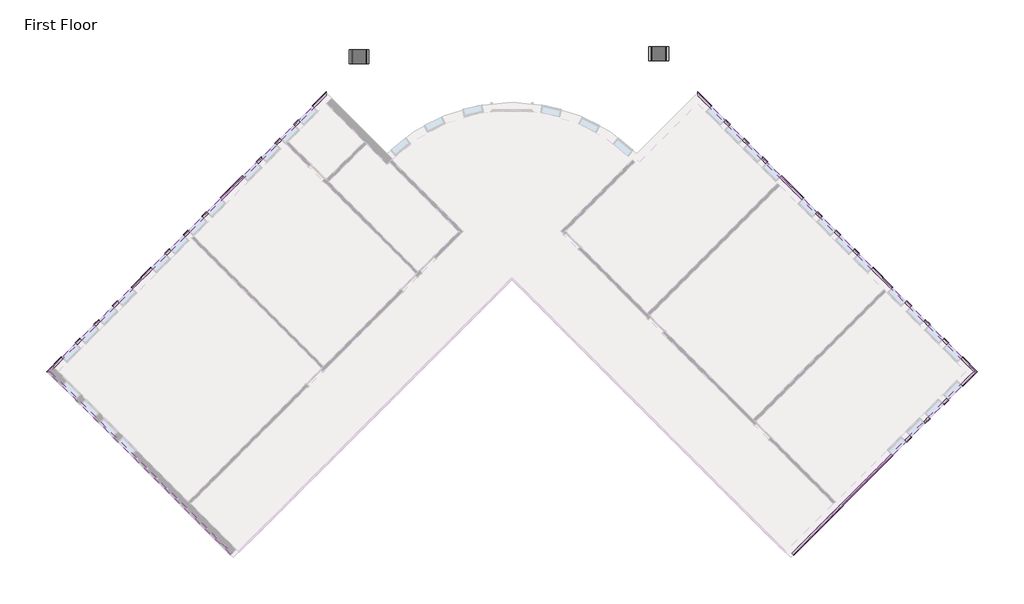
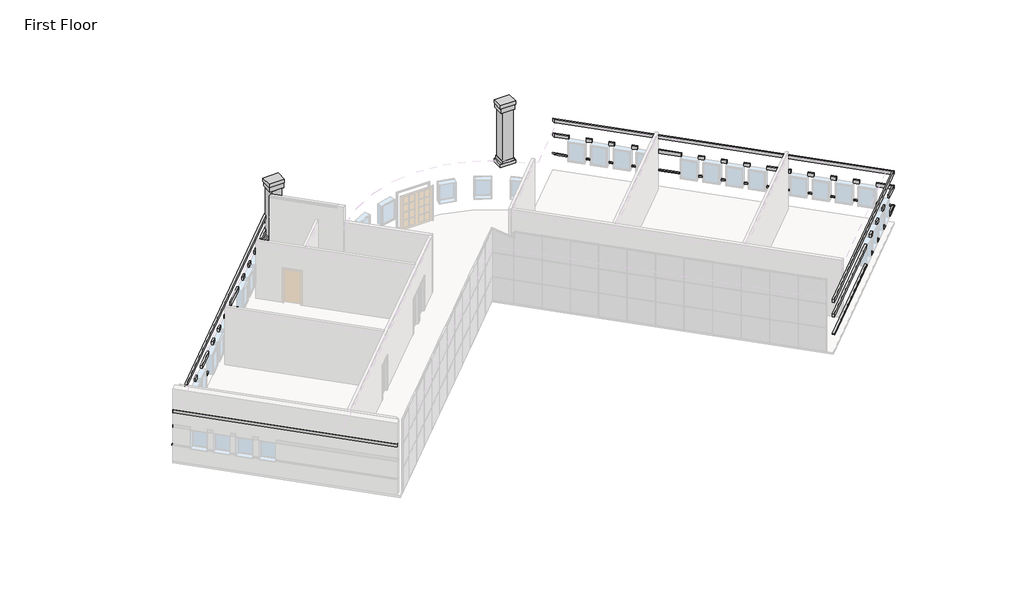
# One storey, part 5 of 5: 12 proxies.
"""IFC4 building model written with IfcOpenShell, lengths in millimetres."""

import ifcopenshell
import ifcopenshell.guid

model = None  # the IFC model being written
_history = None  # IfcOwnerHistory: only IFC2X3 demands one
_inside = {}  # id of a spatial element -> (the spatial element, [elements in it])
_under = {}  # id of a project, library or spatial element -> (it, [spatial elements below it])
_declared = {}  # id of a project -> (the project, [libraries it declares])
_typed = {}  # id of a type object -> (the type object, [elements of that type])
_made_of = {}  # id of a material, layer set ... -> (it, [elements and type objects made of it])


def new_model(schema):
    """Start an empty IFC model of exactly this schema.

    Asked for "IFC4X3", IfcOpenShell would pick the latest addendum, in which some entities
    have other attributes; the version numbers below select the first issue.
    IFC2X3 requires an IfcOwnerHistory on every rooted entity: one is made here for all.
    """
    global model, _history
    if schema == "IFC4X3":
        model = ifcopenshell.file(schema_version=(4, 3, 0, 0))
    else:
        model = ifcopenshell.file(schema=schema)
    _inside.clear()
    _under.clear()
    _declared.clear()
    _typed.clear()
    _made_of.clear()
    _history = None
    if model.schema == "IFC2X3":
        org = make("IfcOrganization", Name="unknown")
        user = make(
            "IfcPersonAndOrganization",
            ThePerson=make("IfcPerson", FamilyName="unknown"),
            TheOrganization=org,
        )
        app = make(
            "IfcApplication",
            ApplicationDeveloper=org,
            Version="unknown",
            ApplicationFullName="unknown",
            ApplicationIdentifier="unknown",
        )
        _history = make(
            "IfcOwnerHistory",
            OwningUser=user,
            OwningApplication=app,
            ChangeAction="ADDED",
            CreationDate=0,
        )
    return model


def make(cls, **values):
    """One entity of the class cls with the attributes given. An attribute that is None is left unset."""
    return model.create_entity(
        cls, **{name: value for name, value in values.items() if value is not None}
    )


def rooted(cls, **values):
    """An entity with a GlobalId (a new one), such as an element, a storey or a relation."""
    return make(cls, GlobalId=ifcopenshell.guid.new(), OwnerHistory=_history, **values)


def si_unit(unit_type, name, prefix=None):
    """IfcSIUnit, for example si_unit("LENGTHUNIT", "METRE", prefix="MILLI")."""
    return make("IfcSIUnit", UnitType=unit_type, Prefix=prefix, Name=name)


def assignment(units):
    """IfcUnitAssignment: the units of a project."""
    return None if units is None else make("IfcUnitAssignment", Units=units)


def point(xyz):
    """IfcCartesianPoint."""
    return None if xyz is None else make("IfcCartesianPoint", Coordinates=xyz)


def direction(xyz):
    """IfcDirection."""
    return None if xyz is None else make("IfcDirection", DirectionRatios=xyz)


def frame(location, z_axis=None, x_axis=None):
    """IfcAxis2Placement3D, a coordinate frame: its origin and axes. An axis left out is left unset."""
    return make(
        "IfcAxis2Placement3D",
        Location=point(location),
        Axis=direction(z_axis),
        RefDirection=direction(x_axis),
    )


def origin():
    """The frame at (0, 0, 0) with its axes left unset."""
    return frame((0.0, 0.0, 0.0))


def origin_with_axes():
    """The frame at (0, 0, 0) with the z axis (0, 0, 1) and the x axis (1, 0, 0) written out."""
    return frame((0.0, 0.0, 0.0), z_axis=(0.0, 0.0, 1.0), x_axis=(1.0, 0.0, 0.0))


def place(relative_to, where):
    """IfcLocalPlacement: puts the frame where relative to a parent placement (None: the world)."""
    return make(
        "IfcLocalPlacement", PlacementRelTo=relative_to, RelativePlacement=where
    )


def context(
    kind, dimensions, precision=None, world=None, true_north=None, identifier=None
):
    """IfcGeometricRepresentationContext, for example the 3D "Model" context."""
    return make(
        "IfcGeometricRepresentationContext",
        ContextIdentifier=identifier,
        ContextType=kind,
        CoordinateSpaceDimension=dimensions,
        Precision=precision,
        WorldCoordinateSystem=world,
        TrueNorth=true_north,
    )


def project(units=None, contexts=None):
    """IfcProject with its units and contexts."""
    return rooted(
        "IfcProject",
        Name="project",
        RepresentationContexts=contexts,
        UnitsInContext=assignment(units),
    )


def spatial(cls, under=None, at=None, **own):
    """A site, building, storey or space (cls), placed at a placement, below another one or the project."""
    s = rooted(cls, ObjectPlacement=at, **own)
    if under is not None:
        _under.setdefault(under.id(), (under, []))[1].append(s)
    return s


def polyline(points):
    """IfcPolyline through the points."""
    return make("IfcPolyline", Points=[point(p) for p in points])


def outline(outer, holes=None, kind="AREA"):
    """IfcArbitraryClosedProfileDef: a profile drawn as a closed curve; with holes, ...WithVoids."""
    if holes is None:
        return make("IfcArbitraryClosedProfileDef", ProfileType=kind, OuterCurve=outer)
    return make(
        "IfcArbitraryProfileDefWithVoids",
        ProfileType=kind,
        OuterCurve=outer,
        InnerCurves=holes,
    )


def extrude(swept, where, along, depth):
    """IfcExtrudedAreaSolid: the profile swept, set in the frame where, extruded along a direction by depth."""
    return make(
        "IfcExtrudedAreaSolid",
        SweptArea=swept,
        Position=where,
        ExtrudedDirection=direction(along),
        Depth=depth,
    )


def faces_of(points, faces, orient=None, outer=None):
    """IfcFace entities. A face is a list of loops; a loop is a list of indices into points, from 0.

    orient and outer hold one flag for each loop. By default every Orientation is true, the
    first loop of a face is its IfcFaceOuterBound and the others are IfcFaceBound.
    """
    made = []
    for i, loops in enumerate(faces):
        bounds = []
        for j, loop in enumerate(loops):
            is_outer = j == 0 if outer is None else outer[i][j]
            bounds.append(
                make(
                    "IfcFaceOuterBound" if is_outer else "IfcFaceBound",
                    Bound=make("IfcPolyLoop", Polygon=[points[k] for k in loop]),
                    Orientation=True if orient is None else orient[i][j],
                )
            )
        made.append(make("IfcFace", Bounds=bounds))
    return made


def faceted_brep(points, faces, orient=None, outer=None, voids=None):
    """IfcFacetedBrep: a solid bounded by flat faces; with voids (closed shells), ...WithVoids."""
    shared = [point(p) for p in points]
    hull = make("IfcClosedShell", CfsFaces=faces_of(shared, faces, orient, outer))
    if voids is None:
        return make("IfcFacetedBrep", Outer=hull)
    return make(
        "IfcFacetedBrepWithVoids",
        Outer=hull,
        Voids=[
            make(cls, CfsFaces=faces_of(shared, fs, o, b)) for cls, fs, o, b in voids
        ],
    )


def shape(context_of_items, identifier, shape_type, items):
    """IfcShapeRepresentation: the items that make up one representation, for example the "Body"."""
    return make(
        "IfcShapeRepresentation",
        ContextOfItems=context_of_items,
        RepresentationIdentifier=identifier,
        RepresentationType=shape_type,
        Items=items,
    )


def source(mapping_origin, context_of_items, identifier, shape_type, items):
    """IfcRepresentationMap: a shape defined once, which mapped items show again and again."""
    return make(
        "IfcRepresentationMap",
        MappingOrigin=mapping_origin,
        MappedRepresentation=shape(context_of_items, identifier, shape_type, items),
    )


def transform(
    local_origin,
    x_axis=None,
    y_axis=None,
    z_axis=None,
    scale=None,
    scale2=None,
    scale3=None,
    uniform=True,
):
    """IfcCartesianTransformationOperator3D, or its non-uniform kind. x_axis, y_axis, z_axis: its Axis1, 2, 3."""
    if uniform:
        return make(
            "IfcCartesianTransformationOperator3D",
            Axis1=direction(x_axis),
            Axis2=direction(y_axis),
            LocalOrigin=point(local_origin),
            Scale=scale,
            Axis3=direction(z_axis),
        )
    return make(
        "IfcCartesianTransformationOperator3DnonUniform",
        Axis1=direction(x_axis),
        Axis2=direction(y_axis),
        LocalOrigin=point(local_origin),
        Scale=scale,
        Axis3=direction(z_axis),
        Scale2=scale2,
        Scale3=scale3,
    )


def mapped(mapping_source, mapping_target):
    """IfcMappedItem: shows the shape of a source again, moved by a transform."""
    return make(
        "IfcMappedItem", MappingSource=mapping_source, MappingTarget=mapping_target
    )


def made_of(thing, what):
    """Note that an element or type object is made of a material, layer set ...; save() writes the relation."""
    if what is not None:
        _made_of.setdefault(what.id(), (what, []))[1].append(thing)
    return thing


def element(
    cls,
    number,
    at=None,
    inside=None,
    cuts=None,
    type_object=None,
    material=None,
    context=None,
    identifier="Body",
    shape_type=None,
    held_by="IfcProductDefinitionShape",
    body=None,
    shapes=None,
    **own,
):
    """One element of the class cls, such as IfcWall. Its Tag is "e" and its number.

    at: its placement. inside: the storey or other place that contains it. cuts: it is an
    opening in that element (IfcRelVoidsElement). A single representation is given by context,
    identifier, shape_type and body (its items); several are given by shapes. held_by: the class
    of the entity that holds the representations. save() writes the other relations.
    """
    e = rooted(cls, Tag="e%d" % number, ObjectPlacement=at, **own)
    if body is not None:
        shapes = [shape(context, identifier, shape_type, body)]
    if shapes is not None:
        e.Representation = make(held_by, Representations=shapes)
    if inside is not None:
        _inside.setdefault(inside.id(), (inside, []))[1].append(e)
    if cuts is not None:
        rooted(
            "IfcRelVoidsElement", RelatingBuildingElement=cuts, RelatedOpeningElement=e
        )
    if type_object is not None:
        _typed.setdefault(type_object.id(), (type_object, []))[1].append(e)
    return made_of(e, material)


def aggregate(whole, parts):
    """IfcRelAggregates: a whole, such as a stair, and the parts it consists of."""
    return rooted("IfcRelAggregates", RelatingObject=whole, RelatedObjects=parts)


def save(model, path):
    """Write the relations noted so far, then the file.

    IfcRelAggregates (storeys below a building ...), IfcRelContainedInSpatialStructure (elements
    in a storey), IfcRelDefinesByType, IfcRelAssociatesMaterial and IfcRelDeclares: one each for
    every whole, place, type object, material and project.
    """
    for whole, parts in _under.values():
        aggregate(whole, parts)
    for where, things in _inside.values():
        rooted(
            "IfcRelContainedInSpatialStructure",
            RelatedElements=things,
            RelatingStructure=where,
        )
    for kind, things in _typed.values():
        rooted("IfcRelDefinesByType", RelatedObjects=things, RelatingType=kind)
    for what, things in _made_of.values():
        rooted("IfcRelAssociatesMaterial", RelatedObjects=things, RelatingMaterial=what)
    for by, libraries in _declared.values():
        rooted("IfcRelDeclares", RelatingContext=by, RelatedDefinitions=libraries)
    model.write(path)


def architectural_column_architectural_column_acd7ab04(model_context):
    return source(origin(), model_context, "Body", "SolidModel", [
        faceted_brep([(-304.8, -3048.0, 355.6), (304.8, -3048.0, 355.6), (304.8, -3048.0, 3403.6), (-304.8, -3048.0, 3403.6), (-177.8, -3048.0, 508.0), (-177.8, -3048.0, 3251.2), (-127.0, -3048.0, 3251.2), (-127.0, -3048.0, 508.0), (25.4, -3048.0, 508.0), (-25.4, -3048.0, 508.0), (-25.4, -3048.0, 3251.2), (25.4, -3048.0, 3251.2), (127.0, -3048.0, 508.0), (127.0, -3048.0, 3251.2), (177.8, -3048.0, 3251.2), (177.8, -3048.0, 508.0), (-304.8, -2387.6, 355.6), (-304.8, -2387.6, 3403.6), (304.8, -2387.6, 3403.6), (304.8, -2387.6, 355.6), (-177.8, -3031.7847439, 3251.2), (-177.8, -3031.7847439, 508.0), (-127.0, -3031.7847439, 508.0), (-127.0, -3031.7847439, 3251.2), (-25.4, -3031.7847439, 508.0), (25.4, -3031.7847439, 508.0), (25.4, -3031.7847439, 3251.2), (-25.4, -3031.7847439, 3251.2), (127.0, -3031.7847439, 3251.2), (127.0, -3031.7847439, 508.0), (177.8, -3031.7847439, 508.0), (177.8, -3031.7847439, 3251.2)], [[[0, 1, 2, 3], [4, 5, 6, 7], [8, 9, 10, 11], [12, 13, 14, 15]], [[16, 17, 18, 19]], [[1, 0, 16, 19]], [[2, 1, 19, 18]], [[3, 2, 18, 17]], [[0, 3, 17, 16]], [[20, 21, 22, 23]], [[24, 25, 26, 27]], [[28, 29, 30, 31]], [[21, 20, 5, 4]], [[22, 21, 4, 7]], [[23, 22, 7, 6]], [[20, 23, 6, 5]], [[25, 24, 9, 8]], [[26, 25, 8, 11]], [[27, 26, 11, 10]], [[24, 27, 10, 9]], [[29, 28, 13, 12]], [[30, 29, 12, 15]], [[31, 30, 15, 14]], [[28, 31, 14, 13]]]),
        extrude(outline(polyline([(457.2, -3048.0), (-457.2, -3048.0), (-457.2, -2387.6), (457.2, -2387.6), (457.2, -3048.0)])), origin_with_axes(), (0.0, 0.0, 1.0), 203.2),
        extrude(outline(polyline([(355.6, -3048.0), (-355.6, -3048.0), (-355.6, -2387.6), (355.6, -2387.6), (355.6, -3048.0)])), frame((0.0, 0.0, 203.2), z_axis=(0.0, 0.0, 1.0), x_axis=(1.0, 0.0, 0.0)), (0.0, 0.0, 1.0), 152.4),
        extrude(outline(polyline([(457.2, -3048.0), (-457.2, -3048.0), (-457.2, -2387.6), (457.2, -2387.6), (457.2, -3048.0)])), frame((0.0, 0.0, 3708.4), z_axis=(0.0, 0.0, 1.0), x_axis=(1.0, 0.0, 0.0)), (0.0, 0.0, 1.0), 208.8835792),
        extrude(outline(polyline([(3403.6, -406.4), (3403.6, -304.8), (3403.6, 406.4), (3708.4, 406.4), (3708.4, -406.4), (3403.6, -406.4)])), frame((0.0, -3048.0, 0.0), z_axis=(0.0, 1.0, 0.0), x_axis=(0.0, 0.0, 1.0)), (0.0, 0.0, 1.0), 660.4),
    ])


model = new_model("IFC4")

# Units and contexts
model_context = context("Model", 3, world=origin())
ifc_project = project(units=[si_unit("LENGTHUNIT", "METRE", prefix="MILLI")], contexts=[model_context])

# Site, building, storey
site = spatial("IfcSite", under=ifc_project)
building = spatial("IfcBuilding", under=site)
storey = spatial("IfcBuildingStorey", under=building, Name="First Floor", Elevation=0.0)

# Proxies
placement = place(None, origin())
element("IfcBuildingElementProxy", 1, Name="Wall Sweeps", at=placement, inside=storey, context=model_context, shape_type="Brep", body=[
    faceted_brep([(5753.0175119, 11443.3655905, 1085.85), (5753.0175119, 11573.5793042, 1085.85), (5753.0175119, 11622.9707129, 1041.4), (5753.0175119, 11622.9707129, 1016.0), (5753.0175119, 11443.3655905, 1016.0), (6317.415551, 10878.9675514, 1085.85), (6317.415551, 10878.9675514, 1016.0), (6382.5224079, 10944.0744083, 1016.0), (6407.2181122, 10968.7701126, 1016.0), (6407.2181122, 10968.7701126, 1041.4), (6382.5224079, 10944.0744083, 1085.85), (5937.1127624, 11259.27034, 1085.85), (5937.1127624, 11259.27034, 1016.0)], [[[0, 1, 2, 3, 4]], [[5, 6, 7, 8, 9, 10]], [[1, 0, 11, 5, 10]], [[2, 1, 10, 9]], [[3, 2, 9, 8]], [[4, 3, 8, 7, 6, 12]], [[0, 4, 12, 6, 5, 11]]]),
    faceted_brep([(6963.9939917, 10232.3891107, 1085.85), (7029.1008486, 10297.4959676, 1085.85), (7053.7965529, 10322.1916719, 1041.4), (7053.7965529, 10322.1916719, 1016.0), (7029.1008486, 10297.4959676, 1016.0), (6963.9939917, 10232.3891107, 1016.0), (7179.5201386, 10016.8629638, 1085.85), (7179.5201386, 10016.8629638, 1016.0), (7244.6269955, 10081.9698207, 1016.0), (7269.3226998, 10106.665525, 1016.0), (7269.3226998, 10106.665525, 1041.4), (7244.6269955, 10081.9698207, 1085.85)], [[[0, 1, 2, 3, 4, 5]], [[6, 7, 8, 9, 10, 11]], [[1, 0, 6, 11]], [[2, 1, 11, 10]], [[3, 2, 10, 9]], [[5, 4, 3, 9, 8, 7]], [[0, 5, 7, 6]]]),
    faceted_brep([(7826.0985793, 9370.2845231, 1085.85), (7891.2054362, 9435.39138, 1085.85), (7915.9011405, 9460.0870843, 1041.4), (7915.9011405, 9460.0870843, 1016.0), (7891.2054362, 9435.39138, 1016.0), (7826.0985793, 9370.2845231, 1016.0), (8041.6247262, 9154.7583762, 1085.85), (8041.6247262, 9154.7583762, 1016.0), (8106.7315831, 9219.8652331, 1016.0), (8131.4272874, 9244.5609374, 1016.0), (8131.4272874, 9244.5609374, 1041.4), (8106.7315831, 9219.8652331, 1085.85)], [[[0, 1, 2, 3, 4, 5]], [[6, 7, 8, 9, 10, 11]], [[1, 0, 6, 11]], [[2, 1, 11, 10]], [[3, 2, 10, 9]], [[5, 4, 3, 9, 8, 7]], [[0, 5, 7, 6]]]),
    faceted_brep([(8688.2031669, 8508.1799355, 1085.85), (8753.3100238, 8573.2867923, 1085.85), (8778.0057282, 8597.9824967, 1041.4), (8778.0057282, 8597.9824967, 1016.0), (8753.3100238, 8573.2867923, 1016.0), (8688.2031669, 8508.1799355, 1016.0), (8903.7293139, 8292.6537886, 1085.85), (8903.7293139, 8292.6537886, 1016.0), (8968.8361707, 8357.7606454, 1016.0), (8993.5318751, 8382.4563498, 1016.0), (8993.5318751, 8382.4563498, 1041.4), (8968.8361707, 8357.7606454, 1085.85)], [[[0, 1, 2, 3, 4, 5]], [[6, 7, 8, 9, 10, 11]], [[1, 0, 6, 11]], [[2, 1, 11, 10]], [[3, 2, 10, 9]], [[5, 4, 3, 9, 8, 7]], [[0, 5, 7, 6]]]),
    faceted_brep([(9550.3077546, 7646.0753478, 1085.85), (9615.4146114, 7711.1822047, 1085.85), (9640.1103158, 7735.877909, 1041.4), (9640.1103158, 7735.877909, 1016.0), (9615.4146114, 7711.1822047, 1016.0), (9550.3077546, 7646.0753478, 1016.0), (10574.7639411, 6621.6191613, 1085.85), (10574.7639411, 6621.6191613, 1016.0), (10639.870798, 6686.7260182, 1016.0), (10664.5665023, 6711.4217225, 1016.0), (10664.5665023, 6711.4217225, 1041.4), (10639.870798, 6686.7260182, 1085.85)], [[[0, 1, 2, 3, 4, 5]], [[6, 7, 8, 9, 10, 11]], [[1, 0, 6, 11]], [[2, 1, 11, 10]], [[3, 2, 10, 9]], [[5, 4, 3, 9, 8, 7]], [[0, 5, 7, 6]]]),
    faceted_brep([(11221.3423818, 5975.0407206, 1085.85), (11286.4492387, 6040.1475775, 1085.85), (11311.144943, 6064.8432818, 1041.4), (11311.144943, 6064.8432818, 1016.0), (11286.4492387, 6040.1475775, 1016.0), (11221.3423818, 5975.0407206, 1016.0), (11436.8685287, 5759.5145737, 1085.85), (11436.8685287, 5759.5145737, 1016.0), (11501.9753856, 5824.6214306, 1016.0), (11526.6710899, 5849.3171349, 1016.0), (11526.6710899, 5849.3171349, 1041.4), (11501.9753856, 5824.6214306, 1085.85)], [[[0, 1, 2, 3, 4, 5]], [[6, 7, 8, 9, 10, 11]], [[1, 0, 6, 11]], [[2, 1, 11, 10]], [[3, 2, 10, 9]], [[5, 4, 3, 9, 8, 7]], [[0, 5, 7, 6]]]),
    faceted_brep([(12083.4469694, 5112.936133, 1085.85), (12148.5538263, 5178.0429899, 1085.85), (12173.2495306, 5202.7386942, 1041.4), (12173.2495306, 5202.7386942, 1016.0), (12148.5538263, 5178.0429899, 1016.0), (12083.4469694, 5112.936133, 1016.0), (12298.9731163, 4897.4099861, 1085.85), (12298.9731163, 4897.4099861, 1016.0), (12364.0799732, 4962.516843, 1016.0), (12388.7756775, 4987.2125473, 1016.0), (12388.7756775, 4987.2125473, 1041.4), (12364.0799732, 4962.516843, 1085.85)], [[[0, 1, 2, 3, 4, 5]], [[6, 7, 8, 9, 10, 11]], [[1, 0, 6, 11]], [[2, 1, 11, 10]], [[3, 2, 10, 9]], [[5, 4, 3, 9, 8, 7]], [[0, 5, 7, 6]]]),
    faceted_brep([(12945.551557, 4250.8315454, 1085.85), (13010.6584139, 4315.9384023, 1085.85), (13035.3541182, 4340.6341066, 1041.4), (13035.3541182, 4340.6341066, 1016.0), (13010.6584139, 4315.9384023, 1016.0), (12945.551557, 4250.8315454, 1016.0), (13161.0777039, 4035.3053985, 1085.85), (13161.0777039, 4035.3053985, 1016.0), (13226.1845608, 4100.4122553, 1016.0), (13250.8802652, 4125.1079597, 1016.0), (13250.8802652, 4125.1079597, 1041.4), (13226.1845608, 4100.4122553, 1085.85)], [[[0, 1, 2, 3, 4, 5]], [[6, 7, 8, 9, 10, 11]], [[1, 0, 6, 11]], [[2, 1, 11, 10]], [[3, 2, 10, 9]], [[5, 4, 3, 9, 8, 7]], [[0, 5, 7, 6]]]),
    faceted_brep([(13807.6561447, 3388.7269578, 1085.85), (13872.7630015, 3453.8338146, 1085.85), (13897.4587059, 3478.529519, 1041.4), (13897.4587059, 3478.529519, 1016.0), (13872.7630015, 3453.8338146, 1016.0), (13807.6561447, 3388.7269578, 1016.0), (14723.1708449, 2473.2122576, 1085.85), (14723.1708449, 2473.2122576, 1016.0), (14788.2777017, 2538.3191144, 1016.0), (14812.9734061, 2563.0148188, 1016.0), (14812.9734061, 2563.0148188, 1041.4), (14788.2777017, 2538.3191144, 1085.85)], [[[0, 1, 2, 3, 4, 5]], [[6, 7, 8, 9, 10, 11]], [[1, 0, 6, 11]], [[2, 1, 11, 10]], [[3, 2, 10, 9]], [[5, 4, 3, 9, 8, 7]], [[0, 5, 7, 6]]]),
    faceted_brep([(15369.7492856, 1826.6338168, 1085.85), (15434.8561424, 1891.7406737, 1085.85), (15459.5518468, 1916.4363781, 1041.4), (15459.5518468, 1916.4363781, 1016.0), (15434.8561424, 1891.7406737, 1016.0), (15369.7492856, 1826.6338168, 1016.0), (15585.2754325, 1611.1076699, 1085.85), (15585.2754325, 1611.1076699, 1016.0), (15650.3822894, 1676.2145268, 1016.0), (15675.0779937, 1700.9102311, 1016.0), (15675.0779937, 1700.9102311, 1041.4), (15650.3822894, 1676.2145268, 1085.85)], [[[0, 1, 2, 3, 4, 5]], [[6, 7, 8, 9, 10, 11]], [[1, 0, 6, 11]], [[2, 1, 11, 10]], [[3, 2, 10, 9]], [[5, 4, 3, 9, 8, 7]], [[0, 5, 7, 6]]]),
    faceted_brep([(16231.8538732, 964.5292292, 1085.85), (16296.9607301, 1029.6360861, 1085.85), (16321.6564344, 1054.3317904, 1041.4), (16321.6564344, 1054.3317904, 1016.0), (16296.9607301, 1029.6360861, 1016.0), (16231.8538732, 964.5292292, 1016.0), (16447.3800201, 749.0030823, 1085.85), (16447.3800201, 749.0030823, 1016.0), (16512.486877, 814.1099392, 1016.0), (16537.1825813, 838.8056435, 1016.0), (16537.1825813, 838.8056435, 1041.4), (16512.486877, 814.1099392, 1085.85)], [[[0, 1, 2, 3, 4, 5]], [[6, 7, 8, 9, 10, 11]], [[1, 0, 6, 11]], [[2, 1, 11, 10]], [[3, 2, 10, 9]], [[5, 4, 3, 9, 8, 7]], [[0, 5, 7, 6]]]),
    faceted_brep([(17093.9584608, 102.4246416, 1085.85), (17159.0653177, 167.5314985, 1085.85), (17183.761022, 192.2272028, 1041.4), (17183.761022, 192.2272028, 1016.0), (17159.0653177, 167.5314985, 1016.0), (17093.9584608, 102.4246416, 1016.0), (17309.4846077, -113.1015053, 1085.85), (17309.4846077, -113.1015053, 1016.0), (17374.5914646, -47.9946484, 1016.0), (17399.2871689, -23.2989441, 1016.0), (17399.2871689, -23.2989441, 1041.4), (17374.5914646, -47.9946484, 1085.85)], [[[0, 1, 2, 3, 4, 5]], [[6, 7, 8, 9, 10, 11]], [[1, 0, 6, 11]], [[2, 1, 11, 10]], [[3, 2, 10, 9]], [[5, 4, 3, 9, 8, 7]], [[0, 5, 7, 6]]]),
    faceted_brep([(17956.0630484, -759.679946, 1085.85), (18021.1699053, -694.5730891, 1085.85), (18045.8656096, -669.8773848, 1041.4), (18045.8656096, -669.8773848, 1016.0), (18021.1699053, -694.5730891, 1016.0), (17956.0630484, -759.679946, 1016.0), (18554.3726125, -1357.9895101, 1085.85), (18554.3726125, -1357.9895101, 1016.0), (18733.9777349, -1357.9895101, 1016.0), (18733.9777349, -1357.9895101, 1041.4), (18684.5863263, -1357.9895101, 1085.85)], [[[0, 1, 2, 3, 4, 5]], [[6, 7, 8, 9, 10]], [[1, 0, 6, 10]], [[2, 1, 10, 9]], [[3, 2, 9, 8]], [[5, 4, 3, 8, 7]], [[0, 5, 7, 6]]]),
])
element("IfcBuildingElementProxy", 2, Name="Wall Sweeps", at=placement, inside=storey, context=model_context, shape_type="Brep", body=[
    faceted_brep([(5753.0175119, 11573.5793042, 2336.8), (5753.0175119, 11573.5793042, 2133.6), (5753.0175119, 11443.3655905, 2133.6), (5753.0175119, 11443.3655905, 2336.8), (6382.5224079, 10944.0744083, 2336.8), (6317.415551, 10878.9675514, 2336.8), (6317.415551, 10878.9675514, 2133.6), (6382.5224079, 10944.0744083, 2133.6), (6002.2196193, 11324.3771969, 2336.8), (6002.2196193, 11324.3771969, 2133.6), (5937.1127624, 11259.27034, 2133.6), (5937.1127624, 11259.27034, 2336.8)], [[[0, 1, 2, 3]], [[4, 5, 6, 7]], [[1, 0, 8, 4, 7, 9]], [[2, 1, 9, 7, 6, 10]], [[3, 2, 10, 6, 5, 11]], [[0, 3, 11, 5, 4, 8]]]),
    faceted_brep([(7029.1008486, 10297.4959676, 2336.8), (7029.1008486, 10297.4959676, 2133.6), (6963.9939917, 10232.3891107, 2133.6), (6963.9939917, 10232.3891107, 2336.8), (7244.6269955, 10081.9698207, 2336.8), (7179.5201386, 10016.8629638, 2336.8), (7179.5201386, 10016.8629638, 2133.6), (7244.6269955, 10081.9698207, 2133.6)], [[[0, 1, 2, 3]], [[4, 5, 6, 7]], [[1, 0, 4, 7]], [[2, 1, 7, 6]], [[3, 2, 6, 5]], [[0, 3, 5, 4]]]),
    faceted_brep([(7891.2054362, 9435.39138, 2336.8), (7891.2054362, 9435.39138, 2133.6), (7826.0985793, 9370.2845231, 2133.6), (7826.0985793, 9370.2845231, 2336.8), (8106.7315831, 9219.8652331, 2336.8), (8041.6247262, 9154.7583762, 2336.8), (8041.6247262, 9154.7583762, 2133.6), (8106.7315831, 9219.8652331, 2133.6)], [[[0, 1, 2, 3]], [[4, 5, 6, 7]], [[1, 0, 4, 7]], [[2, 1, 7, 6]], [[3, 2, 6, 5]], [[0, 3, 5, 4]]]),
    faceted_brep([(8753.3100238, 8573.2867923, 2336.8), (8753.3100238, 8573.2867923, 2133.6), (8688.2031669, 8508.1799355, 2133.6), (8688.2031669, 8508.1799355, 2336.8), (8968.8361707, 8357.7606454, 2336.8), (8903.7293139, 8292.6537886, 2336.8), (8903.7293139, 8292.6537886, 2133.6), (8968.8361707, 8357.7606454, 2133.6)], [[[0, 1, 2, 3]], [[4, 5, 6, 7]], [[1, 0, 4, 7]], [[2, 1, 7, 6]], [[3, 2, 6, 5]], [[0, 3, 5, 4]]]),
    faceted_brep([(9615.4146114, 7711.1822047, 2336.8), (9615.4146114, 7711.1822047, 2133.6), (9550.3077546, 7646.0753478, 2133.6), (9550.3077546, 7646.0753478, 2336.8), (10639.870798, 6686.7260182, 2336.8), (10574.7639411, 6621.6191613, 2336.8), (10574.7639411, 6621.6191613, 2133.6), (10639.870798, 6686.7260182, 2133.6)], [[[0, 1, 2, 3]], [[4, 5, 6, 7]], [[1, 0, 4, 7]], [[2, 1, 7, 6]], [[3, 2, 6, 5]], [[0, 3, 5, 4]]]),
    faceted_brep([(11286.4492387, 6040.1475775, 2336.8), (11286.4492387, 6040.1475775, 2133.6), (11221.3423818, 5975.0407206, 2133.6), (11221.3423818, 5975.0407206, 2336.8), (11501.9753856, 5824.6214306, 2336.8), (11436.8685287, 5759.5145737, 2336.8), (11436.8685287, 5759.5145737, 2133.6), (11501.9753856, 5824.6214306, 2133.6)], [[[0, 1, 2, 3]], [[4, 5, 6, 7]], [[1, 0, 4, 7]], [[2, 1, 7, 6]], [[3, 2, 6, 5]], [[0, 3, 5, 4]]]),
    faceted_brep([(12148.5538263, 5178.0429899, 2336.8), (12148.5538263, 5178.0429899, 2133.6), (12083.4469694, 5112.936133, 2133.6), (12083.4469694, 5112.936133, 2336.8), (12364.0799732, 4962.516843, 2336.8), (12298.9731163, 4897.4099861, 2336.8), (12298.9731163, 4897.4099861, 2133.6), (12364.0799732, 4962.516843, 2133.6)], [[[0, 1, 2, 3]], [[4, 5, 6, 7]], [[1, 0, 4, 7]], [[2, 1, 7, 6]], [[3, 2, 6, 5]], [[0, 3, 5, 4]]]),
    faceted_brep([(13010.6584139, 4315.9384023, 2336.8), (13010.6584139, 4315.9384023, 2133.6), (12945.551557, 4250.8315454, 2133.6), (12945.551557, 4250.8315454, 2336.8), (13226.1845608, 4100.4122553, 2336.8), (13161.0777039, 4035.3053985, 2336.8), (13161.0777039, 4035.3053985, 2133.6), (13226.1845608, 4100.4122553, 2133.6)], [[[0, 1, 2, 3]], [[4, 5, 6, 7]], [[1, 0, 4, 7]], [[2, 1, 7, 6]], [[3, 2, 6, 5]], [[0, 3, 5, 4]]]),
    faceted_brep([(13872.7630015, 3453.8338146, 2336.8), (13872.7630015, 3453.8338146, 2133.6), (13807.6561447, 3388.7269578, 2133.6), (13807.6561447, 3388.7269578, 2336.8), (14788.2777017, 2538.3191144, 2336.8), (14723.1708449, 2473.2122576, 2336.8), (14723.1708449, 2473.2122576, 2133.6), (14788.2777017, 2538.3191144, 2133.6)], [[[0, 1, 2, 3]], [[4, 5, 6, 7]], [[1, 0, 4, 7]], [[2, 1, 7, 6]], [[3, 2, 6, 5]], [[0, 3, 5, 4]]]),
    faceted_brep([(15434.8561424, 1891.7406737, 2336.8), (15434.8561424, 1891.7406737, 2133.6), (15369.7492856, 1826.6338168, 2133.6), (15369.7492856, 1826.6338168, 2336.8), (15650.3822894, 1676.2145268, 2336.8), (15585.2754325, 1611.1076699, 2336.8), (15585.2754325, 1611.1076699, 2133.6), (15650.3822894, 1676.2145268, 2133.6)], [[[0, 1, 2, 3]], [[4, 5, 6, 7]], [[1, 0, 4, 7]], [[2, 1, 7, 6]], [[3, 2, 6, 5]], [[0, 3, 5, 4]]]),
    faceted_brep([(16296.9607301, 1029.6360861, 2336.8), (16296.9607301, 1029.6360861, 2133.6), (16231.8538732, 964.5292292, 2133.6), (16231.8538732, 964.5292292, 2336.8), (16512.486877, 814.1099392, 2336.8), (16447.3800201, 749.0030823, 2336.8), (16447.3800201, 749.0030823, 2133.6), (16512.486877, 814.1099392, 2133.6)], [[[0, 1, 2, 3]], [[4, 5, 6, 7]], [[1, 0, 4, 7]], [[2, 1, 7, 6]], [[3, 2, 6, 5]], [[0, 3, 5, 4]]]),
    faceted_brep([(17159.0653177, 167.5314985, 2336.8), (17159.0653177, 167.5314985, 2133.6), (17093.9584608, 102.4246416, 2133.6), (17093.9584608, 102.4246416, 2336.8), (17374.5914646, -47.9946484, 2336.8), (17309.4846077, -113.1015053, 2336.8), (17309.4846077, -113.1015053, 2133.6), (17374.5914646, -47.9946484, 2133.6)], [[[0, 1, 2, 3]], [[4, 5, 6, 7]], [[1, 0, 4, 7]], [[2, 1, 7, 6]], [[3, 2, 6, 5]], [[0, 3, 5, 4]]]),
    faceted_brep([(18021.1699053, -694.5730891, 2336.8), (18021.1699053, -694.5730891, 2133.6), (17956.0630484, -759.679946, 2133.6), (17956.0630484, -759.679946, 2336.8), (18684.5863263, -1357.9895101, 2336.8), (18554.3726125, -1357.9895101, 2336.8), (18554.3726125, -1357.9895101, 2133.6), (18684.5863263, -1357.9895101, 2133.6)], [[[0, 1, 2, 3]], [[4, 5, 6, 7]], [[1, 0, 4, 7]], [[2, 1, 7, 6]], [[3, 2, 6, 5]], [[0, 3, 5, 4]]]),
])
element("IfcBuildingElementProxy", 3, Name="Wall Sweeps", at=placement, inside=storey, context=model_context, shape_type="Brep", body=[
    faceted_brep([(5753.0175119, 11573.5793042, 3251.2), (5753.0175119, 11573.5793042, 3048.0), (5753.0175119, 11443.3655905, 3048.0), (5753.0175119, 11443.3655905, 3251.2), (18684.5863263, -1357.9895101, 3251.2), (18554.3726125, -1357.9895101, 3251.2), (18554.3726125, -1357.9895101, 3048.0), (18684.5863263, -1357.9895101, 3048.0), (6002.2196193, 11324.3771969, 3251.2), (6002.2196193, 11324.3771969, 3048.0), (5937.1127624, 11259.27034, 3048.0), (5937.1127624, 11259.27034, 3251.2)], [[[0, 1, 2, 3]], [[4, 5, 6, 7]], [[1, 0, 8, 4, 7, 9]], [[2, 1, 9, 7, 6, 10]], [[3, 2, 10, 6, 5, 11]], [[0, 3, 11, 5, 4, 8]]]),
])
element("IfcBuildingElementProxy", 4, Name="Wall Sweeps", at=placement, inside=storey, context=model_context, shape_type="Brep", body=[
    faceted_brep([(18554.3726125, -1357.9895101, 1085.85), (18684.5863263, -1357.9895101, 1085.85), (18733.9777349, -1357.9895101, 1041.4), (18733.9777349, -1357.9895101, 1016.0), (18554.3726125, -1357.9895101, 1016.0), (17956.0630484, -1956.2990742, 1085.85), (17956.0630484, -1956.2990742, 1016.0), (18021.1699053, -2021.405931, 1016.0), (18045.8656096, -2046.1016354, 1016.0), (18045.8656096, -2046.1016354, 1041.4), (18021.1699053, -2021.405931, 1085.85), (18370.277362, -1542.0847606, 1085.85), (18370.277362, -1542.0847606, 1016.0)], [[[0, 1, 2, 3, 4]], [[5, 6, 7, 8, 9, 10]], [[1, 0, 11, 5, 10]], [[2, 1, 10, 9]], [[3, 2, 9, 8]], [[4, 3, 8, 7, 6, 12]], [[0, 4, 12, 6, 5, 11]]]),
    faceted_brep([(17309.4846077, -2602.8775149, 1085.85), (17374.5914646, -2667.9843718, 1085.85), (17399.2871689, -2692.6800761, 1041.4), (17399.2871689, -2692.6800761, 1016.0), (17374.5914646, -2667.9843718, 1016.0), (17309.4846077, -2602.8775149, 1016.0), (17093.9584608, -2818.4036618, 1085.85), (17093.9584608, -2818.4036618, 1016.0), (17159.0653177, -2883.5105187, 1016.0), (17183.761022, -2908.206223, 1016.0), (17183.761022, -2908.206223, 1041.4), (17159.0653177, -2883.5105187, 1085.85)], [[[0, 1, 2, 3, 4, 5]], [[6, 7, 8, 9, 10, 11]], [[1, 0, 6, 11]], [[2, 1, 11, 10]], [[3, 2, 10, 9]], [[5, 4, 3, 9, 8, 7]], [[0, 5, 7, 6]]]),
    faceted_brep([(16447.3800201, -3464.9821025, 1085.85), (16512.486877, -3530.0889594, 1085.85), (16537.1825813, -3554.7846637, 1041.4), (16537.1825813, -3554.7846637, 1016.0), (16512.486877, -3530.0889594, 1016.0), (16447.3800201, -3464.9821025, 1016.0), (16231.8538732, -3680.5082494, 1085.85), (16231.8538732, -3680.5082494, 1016.0), (16296.9607301, -3745.6151063, 1016.0), (16321.6564344, -3770.3108106, 1016.0), (16321.6564344, -3770.3108106, 1041.4), (16296.9607301, -3745.6151063, 1085.85)], [[[0, 1, 2, 3, 4, 5]], [[6, 7, 8, 9, 10, 11]], [[1, 0, 6, 11]], [[2, 1, 11, 10]], [[3, 2, 10, 9]], [[5, 4, 3, 9, 8, 7]], [[0, 5, 7, 6]]]),
    faceted_brep([(15585.2754325, -4327.0866901, 1085.85), (15650.3822894, -4392.193547, 1085.85), (15675.0779937, -4416.8892513, 1041.4), (15675.0779937, -4416.8892513, 1016.0), (15650.3822894, -4392.193547, 1016.0), (15585.2754325, -4327.0866901, 1016.0), (15369.7492856, -4542.612837, 1085.85), (15369.7492856, -4542.612837, 1016.0), (15434.8561424, -4607.7196939, 1016.0), (15459.5518468, -4632.4153982, 1016.0), (15459.5518468, -4632.4153982, 1041.4), (15434.8561424, -4607.7196939, 1085.85)], [[[0, 1, 2, 3, 4, 5]], [[6, 7, 8, 9, 10, 11]], [[1, 0, 6, 11]], [[2, 1, 11, 10]], [[3, 2, 10, 9]], [[5, 4, 3, 9, 8, 7]], [[0, 5, 7, 6]]]),
    faceted_brep([(14723.1708449, -5189.1912777, 1085.85), (14788.2777017, -5254.2981346, 1085.85), (14812.9734061, -5278.993839, 1041.4), (14812.9734061, -5278.993839, 1016.0), (14788.2777017, -5254.2981346, 1016.0), (14723.1708449, -5189.1912777, 1016.0), (10123.0346468, -9789.3274758, 1085.85), (10123.0346468, -9789.3274758, 1016.0), (10188.1415037, -9854.4343326, 1016.0), (10212.837208, -9879.130037, 1016.0), (10212.837208, -9879.130037, 1041.4), (10188.1415037, -9854.4343326, 1085.85)], [[[0, 1, 2, 3, 4, 5]], [[6, 7, 8, 9, 10, 11]], [[1, 0, 6, 11]], [[2, 1, 11, 10]], [[3, 2, 10, 9]], [[5, 4, 3, 9, 8, 7]], [[0, 5, 7, 6]]]),
])
element("IfcBuildingElementProxy", 5, Name="Wall Sweeps", at=placement, inside=storey, context=model_context, shape_type="Brep", body=[
    faceted_brep([(18684.5863263, -1357.9895101, 2336.8), (18684.5863263, -1357.9895101, 2133.6), (18554.3726125, -1357.9895101, 2133.6), (18554.3726125, -1357.9895101, 2336.8), (18021.1699053, -2021.405931, 2336.8), (17956.0630484, -1956.2990742, 2336.8), (17956.0630484, -1956.2990742, 2133.6), (18021.1699053, -2021.405931, 2133.6), (18435.3842189, -1607.1916175, 2336.8), (18435.3842189, -1607.1916175, 2133.6), (18370.277362, -1542.0847606, 2133.6), (18370.277362, -1542.0847606, 2336.8)], [[[0, 1, 2, 3]], [[4, 5, 6, 7]], [[1, 0, 8, 4, 7, 9]], [[2, 1, 9, 7, 6, 10]], [[3, 2, 10, 6, 5, 11]], [[0, 3, 11, 5, 4, 8]]]),
    faceted_brep([(17374.5914646, -2667.9843718, 2336.8), (17374.5914646, -2667.9843718, 2133.6), (17309.4846077, -2602.8775149, 2133.6), (17309.4846077, -2602.8775149, 2336.8), (17159.0653177, -2883.5105187, 2336.8), (17093.9584608, -2818.4036618, 2336.8), (17093.9584608, -2818.4036618, 2133.6), (17159.0653177, -2883.5105187, 2133.6)], [[[0, 1, 2, 3]], [[4, 5, 6, 7]], [[1, 0, 4, 7]], [[2, 1, 7, 6]], [[3, 2, 6, 5]], [[0, 3, 5, 4]]]),
    faceted_brep([(16512.486877, -3530.0889594, 2336.8), (16512.486877, -3530.0889594, 2133.6), (16447.3800201, -3464.9821025, 2133.6), (16447.3800201, -3464.9821025, 2336.8), (16296.9607301, -3745.6151063, 2336.8), (16231.8538732, -3680.5082494, 2336.8), (16231.8538732, -3680.5082494, 2133.6), (16296.9607301, -3745.6151063, 2133.6)], [[[0, 1, 2, 3]], [[4, 5, 6, 7]], [[1, 0, 4, 7]], [[2, 1, 7, 6]], [[3, 2, 6, 5]], [[0, 3, 5, 4]]]),
    faceted_brep([(15650.3822894, -4392.193547, 2336.8), (15650.3822894, -4392.193547, 2133.6), (15585.2754325, -4327.0866901, 2133.6), (15585.2754325, -4327.0866901, 2336.8), (15434.8561424, -4607.7196939, 2336.8), (15369.7492856, -4542.612837, 2336.8), (15369.7492856, -4542.612837, 2133.6), (15434.8561424, -4607.7196939, 2133.6)], [[[0, 1, 2, 3]], [[4, 5, 6, 7]], [[1, 0, 4, 7]], [[2, 1, 7, 6]], [[3, 2, 6, 5]], [[0, 3, 5, 4]]]),
    faceted_brep([(14788.2777017, -5254.2981346, 2336.8), (14788.2777017, -5254.2981346, 2133.6), (14723.1708449, -5189.1912777, 2133.6), (14723.1708449, -5189.1912777, 2336.8), (10188.1415037, -9854.4343326, 2336.8), (10123.0346468, -9789.3274758, 2336.8), (10123.0346468, -9789.3274758, 2133.6), (10188.1415037, -9854.4343326, 2133.6)], [[[0, 1, 2, 3]], [[4, 5, 6, 7]], [[1, 0, 4, 7]], [[2, 1, 7, 6]], [[3, 2, 6, 5]], [[0, 3, 5, 4]]]),
])
element("IfcBuildingElementProxy", 6, Name="Wall Sweeps", at=placement, inside=storey, context=model_context, shape_type="Brep", body=[
    faceted_brep([(18684.5863263, -1357.9895101, 3251.2), (18684.5863263, -1357.9895101, 3048.0), (18554.3726125, -1357.9895101, 3048.0), (18554.3726125, -1357.9895101, 3251.2), (10188.1415037, -9854.4343326, 3251.2), (10123.0346468, -9789.3274758, 3251.2), (10123.0346468, -9789.3274758, 3048.0), (10188.1415037, -9854.4343326, 3048.0), (18435.3842189, -1607.1916175, 3251.2), (18435.3842189, -1607.1916175, 3048.0), (18370.277362, -1542.0847606, 3048.0), (18370.277362, -1542.0847606, 3251.2)], [[[0, 1, 2, 3]], [[4, 5, 6, 7]], [[1, 0, 8, 4, 7, 9]], [[2, 1, 9, 7, 6, 10]], [[3, 2, 10, 6, 5, 11]], [[0, 3, 11, 5, 4, 8]]]),
])
element("IfcBuildingElementProxy", 7, Name="Wall Sweeps", at=placement, inside=storey, context=model_context, shape_type="SweptSolid", body=[
    extrude(outline(polyline([(-15859.0913754, -9789.3274758), (-15924.1982323, -9854.4343326), (-24420.6430549, -1357.9895101), (-24290.4293411, -1357.9895101), (-15859.0913754, -9789.3274758)])), frame((0.0, 0.0, 3048.0), z_axis=(0.0, 0.0, 1.0), x_axis=(1.0, 0.0, 0.0)), (0.0, 0.0, 1.0), 203.2),
])
element("IfcBuildingElementProxy", 8, Name="Wall Sweeps", at=placement, inside=storey, context=model_context, shape_type="Brep", body=[
    faceted_brep([(-24290.4293411, -1357.9895101, 1085.85), (-24420.6430549, -1357.9895101, 1085.85), (-24470.0344635, -1357.9895101, 1041.4), (-24470.0344635, -1357.9895101, 1016.0), (-24290.4293411, -1357.9895101, 1016.0), (-23692.119777, -759.679946, 1085.85), (-23692.119777, -759.679946, 1016.0), (-23757.2266339, -694.5730891, 1016.0), (-23781.9223383, -669.8773848, 1016.0), (-23781.9223383, -669.8773848, 1041.4), (-23757.2266339, -694.5730891, 1085.85), (-24106.3340906, -1173.8942596, 1085.85), (-24106.3340906, -1173.8942596, 1016.0)], [[[0, 1, 2, 3, 4]], [[5, 6, 7, 8, 9, 10]], [[1, 0, 11, 5, 10]], [[2, 1, 10, 9]], [[3, 2, 9, 8]], [[4, 3, 8, 7, 6, 12]], [[0, 4, 12, 6, 5, 11]]]),
    faceted_brep([(-23045.5413363, -113.1015053, 1085.85), (-23110.6481932, -47.9946484, 1085.85), (-23135.3438975, -23.2989441, 1041.4), (-23135.3438975, -23.2989441, 1016.0), (-23110.6481932, -47.9946484, 1016.0), (-23045.5413363, -113.1015053, 1016.0), (-22830.0151894, 102.4246416, 1085.85), (-22830.0151894, 102.4246416, 1016.0), (-22895.1220463, 167.5314985, 1016.0), (-22919.8177506, 192.2272028, 1016.0), (-22919.8177506, 192.2272028, 1041.4), (-22895.1220463, 167.5314985, 1085.85)], [[[0, 1, 2, 3, 4, 5]], [[6, 7, 8, 9, 10, 11]], [[1, 0, 6, 11]], [[2, 1, 11, 10]], [[3, 2, 10, 9]], [[5, 4, 3, 9, 8, 7]], [[0, 5, 7, 6]]]),
    faceted_brep([(-22183.4367487, 749.0030823, 1085.85), (-22248.5436056, 814.1099392, 1085.85), (-22273.2393099, 838.8056435, 1041.4), (-22273.2393099, 838.8056435, 1016.0), (-22248.5436056, 814.1099392, 1016.0), (-22183.4367487, 749.0030823, 1016.0), (-21967.9106018, 964.5292292, 1085.85), (-21967.9106018, 964.5292292, 1016.0), (-22033.0174587, 1029.6360861, 1016.0), (-22057.713163, 1054.3317904, 1016.0), (-22057.713163, 1054.3317904, 1041.4), (-22033.0174587, 1029.6360861, 1085.85)], [[[0, 1, 2, 3, 4, 5]], [[6, 7, 8, 9, 10, 11]], [[1, 0, 6, 11]], [[2, 1, 11, 10]], [[3, 2, 10, 9]], [[5, 4, 3, 9, 8, 7]], [[0, 5, 7, 6]]]),
    faceted_brep([(-21321.3321611, 1611.1076699, 1085.85), (-21386.439018, 1676.2145268, 1085.85), (-21411.1347223, 1700.9102311, 1041.4), (-21411.1347223, 1700.9102311, 1016.0), (-21386.439018, 1676.2145268, 1016.0), (-21321.3321611, 1611.1076699, 1016.0), (-21105.8060142, 1826.6338168, 1085.85), (-21105.8060142, 1826.6338168, 1016.0), (-21170.9128711, 1891.7406737, 1016.0), (-21195.6085754, 1916.4363781, 1016.0), (-21195.6085754, 1916.4363781, 1041.4), (-21170.9128711, 1891.7406737, 1085.85)], [[[0, 1, 2, 3, 4, 5]], [[6, 7, 8, 9, 10, 11]], [[1, 0, 6, 11]], [[2, 1, 11, 10]], [[3, 2, 10, 9]], [[5, 4, 3, 9, 8, 7]], [[0, 5, 7, 6]]]),
    faceted_brep([(-20459.2275735, 2473.2122576, 1085.85), (-20524.3344303, 2538.3191144, 1085.85), (-20549.0301347, 2563.0148188, 1041.4), (-20549.0301347, 2563.0148188, 1016.0), (-20524.3344303, 2538.3191144, 1016.0), (-20459.2275735, 2473.2122576, 1016.0), (-19543.7128733, 3388.7269578, 1085.85), (-19543.7128733, 3388.7269578, 1016.0), (-19608.8197301, 3453.8338146, 1016.0), (-19633.5154345, 3478.529519, 1016.0), (-19633.5154345, 3478.529519, 1041.4), (-19608.8197301, 3453.8338146, 1085.85)], [[[0, 1, 2, 3, 4, 5]], [[6, 7, 8, 9, 10, 11]], [[1, 0, 6, 11]], [[2, 1, 11, 10]], [[3, 2, 10, 9]], [[5, 4, 3, 9, 8, 7]], [[0, 5, 7, 6]]]),
    faceted_brep([(-18897.1344326, 4035.3053985, 1085.85), (-18962.2412894, 4100.4122553, 1085.85), (-18986.9369938, 4125.1079597, 1041.4), (-18986.9369938, 4125.1079597, 1016.0), (-18962.2412894, 4100.4122553, 1016.0), (-18897.1344326, 4035.3053985, 1016.0), (-18681.6082856, 4250.8315454, 1085.85), (-18681.6082856, 4250.8315454, 1016.0), (-18746.7151425, 4315.9384023, 1016.0), (-18771.4108469, 4340.6341066, 1016.0), (-18771.4108469, 4340.6341066, 1041.4), (-18746.7151425, 4315.9384023, 1085.85)], [[[0, 1, 2, 3, 4, 5]], [[6, 7, 8, 9, 10, 11]], [[1, 0, 6, 11]], [[2, 1, 11, 10]], [[3, 2, 10, 9]], [[5, 4, 3, 9, 8, 7]], [[0, 5, 7, 6]]]),
    faceted_brep([(-18035.0298449, 4897.4099861, 1085.85), (-18100.1367018, 4962.516843, 1085.85), (-18124.8324061, 4987.2125473, 1041.4), (-18124.8324061, 4987.2125473, 1016.0), (-18100.1367018, 4962.516843, 1016.0), (-18035.0298449, 4897.4099861, 1016.0), (-17819.503698, 5112.936133, 1085.85), (-17819.503698, 5112.936133, 1016.0), (-17884.6105549, 5178.0429899, 1016.0), (-17909.3062592, 5202.7386942, 1016.0), (-17909.3062592, 5202.7386942, 1041.4), (-17884.6105549, 5178.0429899, 1085.85)], [[[0, 1, 2, 3, 4, 5]], [[6, 7, 8, 9, 10, 11]], [[1, 0, 6, 11]], [[2, 1, 11, 10]], [[3, 2, 10, 9]], [[5, 4, 3, 9, 8, 7]], [[0, 5, 7, 6]]]),
    faceted_brep([(-17172.9252573, 5759.5145737, 1085.85), (-17238.0321142, 5824.6214306, 1085.85), (-17262.7278185, 5849.3171349, 1041.4), (-17262.7278185, 5849.3171349, 1016.0), (-17238.0321142, 5824.6214306, 1016.0), (-17172.9252573, 5759.5145737, 1016.0), (-16957.3991104, 5975.0407206, 1085.85), (-16957.3991104, 5975.0407206, 1016.0), (-17022.5059673, 6040.1475775, 1016.0), (-17047.2016716, 6064.8432818, 1016.0), (-17047.2016716, 6064.8432818, 1041.4), (-17022.5059673, 6040.1475775, 1085.85)], [[[0, 1, 2, 3, 4, 5]], [[6, 7, 8, 9, 10, 11]], [[1, 0, 6, 11]], [[2, 1, 11, 10]], [[3, 2, 10, 9]], [[5, 4, 3, 9, 8, 7]], [[0, 5, 7, 6]]]),
    faceted_brep([(-16310.8206697, 6621.6191613, 1085.85), (-16375.9275266, 6686.7260182, 1085.85), (-16400.6232309, 6711.4217225, 1041.4), (-16400.6232309, 6711.4217225, 1016.0), (-16375.9275266, 6686.7260182, 1016.0), (-16310.8206697, 6621.6191613, 1016.0), (-15286.3644832, 7646.0753478, 1085.85), (-15286.3644832, 7646.0753478, 1016.0), (-15351.4713401, 7711.1822047, 1016.0), (-15376.1670444, 7735.877909, 1016.0), (-15376.1670444, 7735.877909, 1041.4), (-15351.4713401, 7711.1822047, 1085.85)], [[[0, 1, 2, 3, 4, 5]], [[6, 7, 8, 9, 10, 11]], [[1, 0, 6, 11]], [[2, 1, 11, 10]], [[3, 2, 10, 9]], [[5, 4, 3, 9, 8, 7]], [[0, 5, 7, 6]]]),
    faceted_brep([(-14639.7860425, 8292.6537886, 1085.85), (-14704.8928993, 8357.7606454, 1085.85), (-14729.5886037, 8382.4563498, 1041.4), (-14729.5886037, 8382.4563498, 1016.0), (-14704.8928993, 8357.7606454, 1016.0), (-14639.7860425, 8292.6537886, 1016.0), (-14424.2598956, 8508.1799355, 1085.85), (-14424.2598956, 8508.1799355, 1016.0), (-14489.3667524, 8573.2867923, 1016.0), (-14514.0624568, 8597.9824967, 1016.0), (-14514.0624568, 8597.9824967, 1041.4), (-14489.3667524, 8573.2867923, 1085.85)], [[[0, 1, 2, 3, 4, 5]], [[6, 7, 8, 9, 10, 11]], [[1, 0, 6, 11]], [[2, 1, 11, 10]], [[3, 2, 10, 9]], [[5, 4, 3, 9, 8, 7]], [[0, 5, 7, 6]]]),
    faceted_brep([(-13777.6814548, 9154.7583762, 1085.85), (-13842.7883117, 9219.8652331, 1085.85), (-13867.4840161, 9244.5609374, 1041.4), (-13867.4840161, 9244.5609374, 1016.0), (-13842.7883117, 9219.8652331, 1016.0), (-13777.6814548, 9154.7583762, 1016.0), (-13562.1553079, 9370.2845231, 1085.85), (-13562.1553079, 9370.2845231, 1016.0), (-13627.2621648, 9435.39138, 1016.0), (-13651.9578691, 9460.0870843, 1016.0), (-13651.9578691, 9460.0870843, 1041.4), (-13627.2621648, 9435.39138, 1085.85)], [[[0, 1, 2, 3, 4, 5]], [[6, 7, 8, 9, 10, 11]], [[1, 0, 6, 11]], [[2, 1, 11, 10]], [[3, 2, 10, 9]], [[5, 4, 3, 9, 8, 7]], [[0, 5, 7, 6]]]),
    faceted_brep([(-12915.5768672, 10016.8629638, 1085.85), (-12980.6837241, 10081.9698207, 1085.85), (-13005.3794284, 10106.665525, 1041.4), (-13005.3794284, 10106.665525, 1016.0), (-12980.6837241, 10081.9698207, 1016.0), (-12915.5768672, 10016.8629638, 1016.0), (-12700.0507203, 10232.3891107, 1085.85), (-12700.0507203, 10232.3891107, 1016.0), (-12765.1575772, 10297.4959676, 1016.0), (-12789.8532815, 10322.1916719, 1016.0), (-12789.8532815, 10322.1916719, 1041.4), (-12765.1575772, 10297.4959676, 1085.85)], [[[0, 1, 2, 3, 4, 5]], [[6, 7, 8, 9, 10, 11]], [[1, 0, 6, 11]], [[2, 1, 11, 10]], [[3, 2, 10, 9]], [[5, 4, 3, 9, 8, 7]], [[0, 5, 7, 6]]]),
    faceted_brep([(-12053.4722796, 10878.9675514, 1085.85), (-12118.5791365, 10944.0744083, 1085.85), (-12143.2748408, 10968.7701126, 1041.4), (-12143.2748408, 10968.7701126, 1016.0), (-12118.5791365, 10944.0744083, 1016.0), (-12053.4722796, 10878.9675514, 1016.0), (-11489.0742405, 11443.3655905, 1085.85), (-11489.0742405, 11443.3655905, 1016.0), (-11489.0742405, 11622.9707129, 1016.0), (-11489.0742405, 11622.9707129, 1041.4), (-11489.0742405, 11573.5793042, 1085.85)], [[[0, 1, 2, 3, 4, 5]], [[6, 7, 8, 9, 10]], [[1, 0, 6, 10]], [[2, 1, 10, 9]], [[3, 2, 9, 8]], [[5, 4, 3, 8, 7]], [[0, 5, 7, 6]]]),
])
element("IfcBuildingElementProxy", 9, Name="Wall Sweeps", at=placement, inside=storey, context=model_context, shape_type="Brep", body=[
    faceted_brep([(-24420.6430549, -1357.9895101, 2336.8), (-24420.6430549, -1357.9895101, 2133.6), (-24290.4293411, -1357.9895101, 2133.6), (-24290.4293411, -1357.9895101, 2336.8), (-23757.2266339, -694.5730891, 2336.8), (-23692.119777, -759.679946, 2336.8), (-23692.119777, -759.679946, 2133.6), (-23757.2266339, -694.5730891, 2133.6), (-24171.4409475, -1108.7874027, 2336.8), (-24171.4409475, -1108.7874027, 2133.6), (-24106.3340906, -1173.8942596, 2133.6), (-24106.3340906, -1173.8942596, 2336.8)], [[[0, 1, 2, 3]], [[4, 5, 6, 7]], [[1, 0, 8, 4, 7, 9]], [[2, 1, 9, 7, 6, 10]], [[3, 2, 10, 6, 5, 11]], [[0, 3, 11, 5, 4, 8]]]),
    faceted_brep([(-23110.6481932, -47.9946484, 2336.8), (-23110.6481932, -47.9946484, 2133.6), (-23045.5413363, -113.1015053, 2133.6), (-23045.5413363, -113.1015053, 2336.8), (-22895.1220463, 167.5314985, 2336.8), (-22830.0151894, 102.4246416, 2336.8), (-22830.0151894, 102.4246416, 2133.6), (-22895.1220463, 167.5314985, 2133.6)], [[[0, 1, 2, 3]], [[4, 5, 6, 7]], [[1, 0, 4, 7]], [[2, 1, 7, 6]], [[3, 2, 6, 5]], [[0, 3, 5, 4]]]),
    faceted_brep([(-22248.5436056, 814.1099392, 2336.8), (-22248.5436056, 814.1099392, 2133.6), (-22183.4367487, 749.0030823, 2133.6), (-22183.4367487, 749.0030823, 2336.8), (-22033.0174587, 1029.6360861, 2336.8), (-21967.9106018, 964.5292292, 2336.8), (-21967.9106018, 964.5292292, 2133.6), (-22033.0174587, 1029.6360861, 2133.6)], [[[0, 1, 2, 3]], [[4, 5, 6, 7]], [[1, 0, 4, 7]], [[2, 1, 7, 6]], [[3, 2, 6, 5]], [[0, 3, 5, 4]]]),
    faceted_brep([(-21386.439018, 1676.2145268, 2336.8), (-21386.439018, 1676.2145268, 2133.6), (-21321.3321611, 1611.1076699, 2133.6), (-21321.3321611, 1611.1076699, 2336.8), (-21170.9128711, 1891.7406737, 2336.8), (-21105.8060142, 1826.6338168, 2336.8), (-21105.8060142, 1826.6338168, 2133.6), (-21170.9128711, 1891.7406737, 2133.6)], [[[0, 1, 2, 3]], [[4, 5, 6, 7]], [[1, 0, 4, 7]], [[2, 1, 7, 6]], [[3, 2, 6, 5]], [[0, 3, 5, 4]]]),
    faceted_brep([(-20524.3344303, 2538.3191144, 2336.8), (-20524.3344303, 2538.3191144, 2133.6), (-20459.2275735, 2473.2122576, 2133.6), (-20459.2275735, 2473.2122576, 2336.8), (-19608.8197301, 3453.8338146, 2336.8), (-19543.7128733, 3388.7269578, 2336.8), (-19543.7128733, 3388.7269578, 2133.6), (-19608.8197301, 3453.8338146, 2133.6)], [[[0, 1, 2, 3]], [[4, 5, 6, 7]], [[1, 0, 4, 7]], [[2, 1, 7, 6]], [[3, 2, 6, 5]], [[0, 3, 5, 4]]]),
    faceted_brep([(-18962.2412894, 4100.4122553, 2336.8), (-18962.2412894, 4100.4122553, 2133.6), (-18897.1344326, 4035.3053985, 2133.6), (-18897.1344326, 4035.3053985, 2336.8), (-18746.7151425, 4315.9384023, 2336.8), (-18681.6082856, 4250.8315454, 2336.8), (-18681.6082856, 4250.8315454, 2133.6), (-18746.7151425, 4315.9384023, 2133.6)], [[[0, 1, 2, 3]], [[4, 5, 6, 7]], [[1, 0, 4, 7]], [[2, 1, 7, 6]], [[3, 2, 6, 5]], [[0, 3, 5, 4]]]),
    faceted_brep([(-18100.1367018, 4962.516843, 2336.8), (-18100.1367018, 4962.516843, 2133.6), (-18035.0298449, 4897.4099861, 2133.6), (-18035.0298449, 4897.4099861, 2336.8), (-17884.6105549, 5178.0429899, 2336.8), (-17819.503698, 5112.936133, 2336.8), (-17819.503698, 5112.936133, 2133.6), (-17884.6105549, 5178.0429899, 2133.6)], [[[0, 1, 2, 3]], [[4, 5, 6, 7]], [[1, 0, 4, 7]], [[2, 1, 7, 6]], [[3, 2, 6, 5]], [[0, 3, 5, 4]]]),
    faceted_brep([(-17238.0321142, 5824.6214306, 2336.8), (-17238.0321142, 5824.6214306, 2133.6), (-17172.9252573, 5759.5145737, 2133.6), (-17172.9252573, 5759.5145737, 2336.8), (-17022.5059673, 6040.1475775, 2336.8), (-16957.3991104, 5975.0407206, 2336.8), (-16957.3991104, 5975.0407206, 2133.6), (-17022.5059673, 6040.1475775, 2133.6)], [[[0, 1, 2, 3]], [[4, 5, 6, 7]], [[1, 0, 4, 7]], [[2, 1, 7, 6]], [[3, 2, 6, 5]], [[0, 3, 5, 4]]]),
    faceted_brep([(-16375.9275266, 6686.7260182, 2336.8), (-16375.9275266, 6686.7260182, 2133.6), (-16310.8206697, 6621.6191613, 2133.6), (-16310.8206697, 6621.6191613, 2336.8), (-15351.4713401, 7711.1822047, 2336.8), (-15286.3644832, 7646.0753478, 2336.8), (-15286.3644832, 7646.0753478, 2133.6), (-15351.4713401, 7711.1822047, 2133.6)], [[[0, 1, 2, 3]], [[4, 5, 6, 7]], [[1, 0, 4, 7]], [[2, 1, 7, 6]], [[3, 2, 6, 5]], [[0, 3, 5, 4]]]),
    faceted_brep([(-14704.8928993, 8357.7606454, 2336.8), (-14704.8928993, 8357.7606454, 2133.6), (-14639.7860425, 8292.6537886, 2133.6), (-14639.7860425, 8292.6537886, 2336.8), (-14489.3667524, 8573.2867923, 2336.8), (-14424.2598956, 8508.1799355, 2336.8), (-14424.2598956, 8508.1799355, 2133.6), (-14489.3667524, 8573.2867923, 2133.6)], [[[0, 1, 2, 3]], [[4, 5, 6, 7]], [[1, 0, 4, 7]], [[2, 1, 7, 6]], [[3, 2, 6, 5]], [[0, 3, 5, 4]]]),
    faceted_brep([(-13842.7883117, 9219.8652331, 2336.8), (-13842.7883117, 9219.8652331, 2133.6), (-13777.6814548, 9154.7583762, 2133.6), (-13777.6814548, 9154.7583762, 2336.8), (-13627.2621648, 9435.39138, 2336.8), (-13562.1553079, 9370.2845231, 2336.8), (-13562.1553079, 9370.2845231, 2133.6), (-13627.2621648, 9435.39138, 2133.6)], [[[0, 1, 2, 3]], [[4, 5, 6, 7]], [[1, 0, 4, 7]], [[2, 1, 7, 6]], [[3, 2, 6, 5]], [[0, 3, 5, 4]]]),
    faceted_brep([(-12980.6837241, 10081.9698207, 2336.8), (-12980.6837241, 10081.9698207, 2133.6), (-12915.5768672, 10016.8629638, 2133.6), (-12915.5768672, 10016.8629638, 2336.8), (-12765.1575772, 10297.4959676, 2336.8), (-12700.0507203, 10232.3891107, 2336.8), (-12700.0507203, 10232.3891107, 2133.6), (-12765.1575772, 10297.4959676, 2133.6)], [[[0, 1, 2, 3]], [[4, 5, 6, 7]], [[1, 0, 4, 7]], [[2, 1, 7, 6]], [[3, 2, 6, 5]], [[0, 3, 5, 4]]]),
    faceted_brep([(-12118.5791365, 10944.0744083, 2336.8), (-12118.5791365, 10944.0744083, 2133.6), (-12053.4722796, 10878.9675514, 2133.6), (-12053.4722796, 10878.9675514, 2336.8), (-11489.0742405, 11573.5793042, 2336.8), (-11489.0742405, 11443.3655905, 2336.8), (-11489.0742405, 11443.3655905, 2133.6), (-11489.0742405, 11573.5793042, 2133.6)], [[[0, 1, 2, 3]], [[4, 5, 6, 7]], [[1, 0, 4, 7]], [[2, 1, 7, 6]], [[3, 2, 6, 5]], [[0, 3, 5, 4]]]),
])
element("IfcBuildingElementProxy", 10, Name="Wall Sweeps", at=placement, inside=storey, context=model_context, shape_type="Brep", body=[
    faceted_brep([(-24420.6430549, -1357.9895101, 3251.2), (-24420.6430549, -1357.9895101, 3048.0), (-24290.4293411, -1357.9895101, 3048.0), (-24290.4293411, -1357.9895101, 3251.2), (-11489.0742405, 11573.5793042, 3251.2), (-11489.0742405, 11443.3655905, 3251.2), (-11489.0742405, 11443.3655905, 3048.0), (-11489.0742405, 11573.5793042, 3048.0), (-24171.4409475, -1108.7874027, 3251.2), (-24171.4409475, -1108.7874027, 3048.0), (-24106.3340906, -1173.8942596, 3048.0), (-24106.3340906, -1173.8942596, 3251.2)], [[[0, 1, 2, 3]], [[4, 5, 6, 7]], [[1, 0, 8, 4, 7, 9]], [[2, 1, 9, 7, 6, 10]], [[3, 2, 10, 6, 5, 11]], [[0, 3, 11, 5, 4, 8]]]),
])
architectural_column_architectural_column_shape = architectural_column_architectural_column_acd7ab04(model_context)
element("IfcBuildingElementProxy", 11, Name="Architectural Column : Architectural Column", ObjectType="Architectural Column : Architectural Column", at=placement, inside=storey, context=model_context, shape_type="MappedRepresentation", body=[
    mapped(architectural_column_architectural_column_shape, transform((-9965.0742405, 10534.2448898, 0.0), x_axis=(-1.0, 0.0, 0.0), y_axis=(0.0, -1.0, 0.0), z_axis=(0.0, 0.0, 1.0))),
])
element("IfcBuildingElementProxy", 12, Name="Architectural Column : Architectural Column", ObjectType="Architectural Column : Architectural Column", at=placement, inside=storey, context=model_context, shape_type="MappedRepresentation", body=[
    mapped(architectural_column_architectural_column_shape, transform((3940.9408447, 10675.902637, 0.0), x_axis=(-1.0, 0.0, 0.0), y_axis=(0.0, -1.0, 0.0), z_axis=(0.0, 0.0, 1.0))),
])

save(model, "model.ifc")
